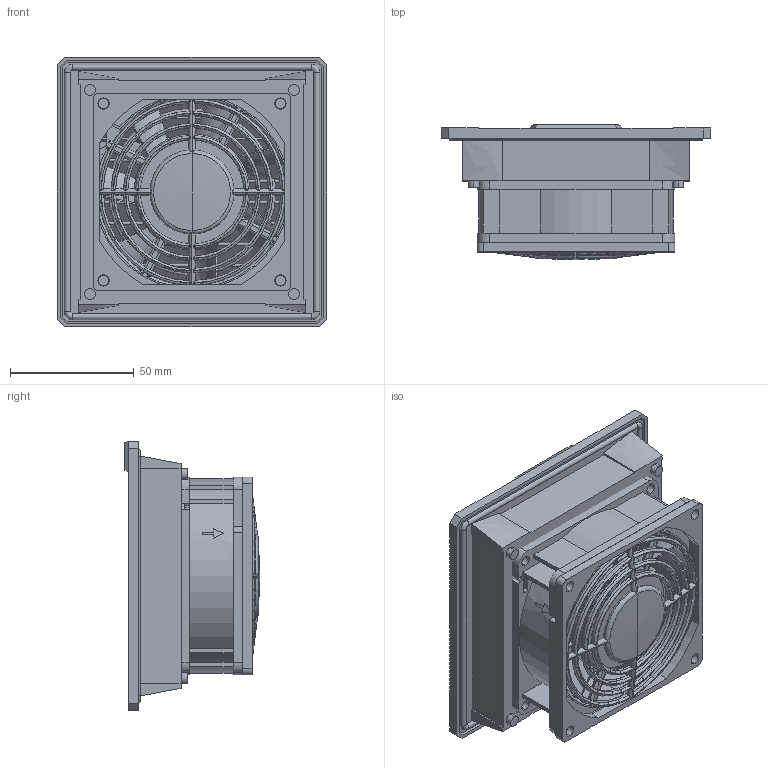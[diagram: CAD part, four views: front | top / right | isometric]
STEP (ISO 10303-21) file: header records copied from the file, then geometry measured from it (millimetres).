
FILE_DESCRIPTION (( 'STEP AP214' ), '1' );
FILE_NAME ('PF 11000_DC_AP214.STEP', '2019-05-29T12:32:41', ( '' ), ( '' ), 'SwSTEP 2.0', 'SolidWorks 2017', '' );
FILE_SCHEMA (( 'AUTOMOTIVE_DESIGN' ));
Length unit declared in the file: millimetre
Products named in the file (6): safty guard PF 1x; Fan Serie 8400 N; 30162-013; cover PF1x; housing PF1x; PF 11000_DC_AP214
Assembly tree (5 placements, depth 2):
  PF 11000_DC_AP214
    housing PF1x
    cover PF1x
    30162-013
    Fan Serie 8400 N
    safty guard PF 1x
Bounding box: 109 x 54.74 x 109 mm (x, y, z)
Volume: 120571.7 mm3; surface area: 118834.4 mm2
Topology: 5 solids, 5 shells, 1565 faces, 4423 edges, 2836 vertices
Faces by surface type: plane 725, cylinder 463, bspline 269, torus 104, cone 4
Entity records: 68654 total; most frequent: CARTESIAN_POINT 28299, ORIENTED_EDGE 8808, DIRECTION 6422, EDGE_CURVE 4404, VERTEX_POINT 2836, LINE 2212, VECTOR 2212, AXIS2_PLACEMENT_3D 2105
